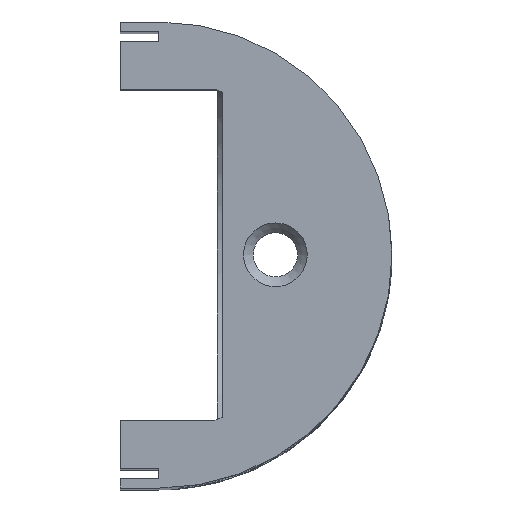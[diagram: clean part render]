
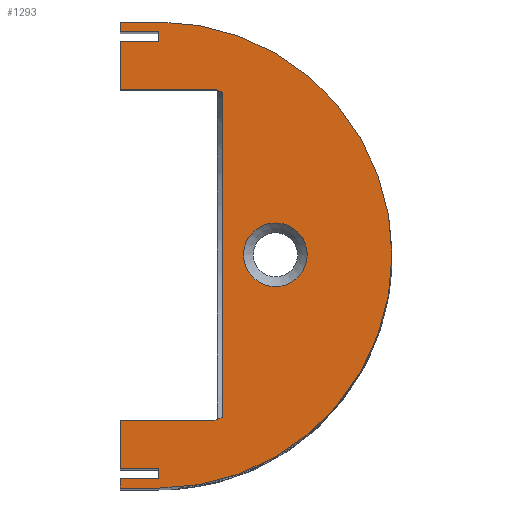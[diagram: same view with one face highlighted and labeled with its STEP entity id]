
A CAD part, top view. The second image highlights one B-rep face of the part: STEP entity #1293.
In plain terms, the highlighted planar face has unit normal (0, 0, 1).
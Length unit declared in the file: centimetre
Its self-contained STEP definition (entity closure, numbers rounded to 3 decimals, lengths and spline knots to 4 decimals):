
#148=CIRCLE('',#1333,3.81);
#177=CIRCLE('',#1386,0.5207);
#179=CIRCLE('',#1390,2.853);
#180=CIRCLE('',#1391,2.853);
#204=VERTEX_POINT('',#1787);
#205=VERTEX_POINT('',#1789);
#277=VERTEX_POINT('',#2385);
#279=VERTEX_POINT('',#2391);
#280=VERTEX_POINT('',#2392);
#281=VERTEX_POINT('',#2394);
#282=VERTEX_POINT('',#2396);
#283=VERTEX_POINT('',#2398);
#284=VERTEX_POINT('',#2400);
#285=VERTEX_POINT('',#2403);
#286=VERTEX_POINT('',#2405);
#287=VERTEX_POINT('',#2407);
#288=VERTEX_POINT('',#2409);
#289=VERTEX_POINT('',#2411);
#290=VERTEX_POINT('',#2413);
#291=VERTEX_POINT('',#2415);
#292=VERTEX_POINT('',#2417);
#293=VERTEX_POINT('',#2419);
#294=VERTEX_POINT('',#2421);
#376=VECTOR('',#1609,1.);
#377=VECTOR('',#1610,1.);
#378=VECTOR('',#1611,1.);
#379=VECTOR('',#1612,1.);
#380=VECTOR('',#1613,1.);
#381=VECTOR('',#1614,1.);
#382=VECTOR('',#1615,1.);
#383=VECTOR('',#1616,1.);
#384=VECTOR('',#1617,1.);
#385=VECTOR('',#1618,1.);
#386=VECTOR('',#1619,1.);
#387=VECTOR('',#1620,1.);
#388=VECTOR('',#1621,1.);
#389=VECTOR('',#1624,1.);
#390=VECTOR('',#1627,1.);
#492=LINE('',#2390,#376);
#493=LINE('',#2393,#377);
#494=LINE('',#2395,#378);
#495=LINE('',#2397,#379);
#496=LINE('',#2399,#380);
#497=LINE('',#2401,#381);
#498=LINE('',#2402,#382);
#499=LINE('',#2404,#383);
#500=LINE('',#2406,#384);
#501=LINE('',#2408,#385);
#502=LINE('',#2410,#386);
#503=LINE('',#2412,#387);
#504=LINE('',#2414,#388);
#505=LINE('',#2418,#389);
#506=LINE('',#2422,#390);
#568=EDGE_CURVE('',#204,#205,#148,.T.);
#676=EDGE_CURVE('',#277,#277,#177,.T.);
#678=EDGE_CURVE('',#279,#280,#492,.T.);
#679=EDGE_CURVE('',#281,#279,#493,.T.);
#680=EDGE_CURVE('',#282,#281,#494,.T.);
#681=EDGE_CURVE('',#283,#282,#495,.T.);
#682=EDGE_CURVE('',#284,#283,#496,.T.);
#683=EDGE_CURVE('',#205,#284,#497,.T.);
#684=EDGE_CURVE('',#285,#204,#498,.T.);
#685=EDGE_CURVE('',#286,#285,#499,.T.);
#686=EDGE_CURVE('',#287,#286,#500,.T.);
#687=EDGE_CURVE('',#288,#287,#501,.T.);
#688=EDGE_CURVE('',#289,#288,#502,.T.);
#689=EDGE_CURVE('',#290,#289,#503,.T.);
#690=EDGE_CURVE('',#291,#290,#504,.T.);
#691=EDGE_CURVE('',#292,#291,#179,.T.);
#692=EDGE_CURVE('',#293,#292,#505,.T.);
#693=EDGE_CURVE('',#294,#293,#180,.T.);
#694=EDGE_CURVE('',#280,#294,#506,.T.);
#964=ORIENTED_EDGE('',*,*,#678,.F.);
#965=ORIENTED_EDGE('',*,*,#679,.F.);
#966=ORIENTED_EDGE('',*,*,#680,.F.);
#967=ORIENTED_EDGE('',*,*,#681,.F.);
#968=ORIENTED_EDGE('',*,*,#682,.F.);
#969=ORIENTED_EDGE('',*,*,#683,.F.);
#970=ORIENTED_EDGE('',*,*,#568,.F.);
#971=ORIENTED_EDGE('',*,*,#684,.F.);
#972=ORIENTED_EDGE('',*,*,#685,.F.);
#973=ORIENTED_EDGE('',*,*,#686,.F.);
#974=ORIENTED_EDGE('',*,*,#687,.F.);
#975=ORIENTED_EDGE('',*,*,#688,.F.);
#976=ORIENTED_EDGE('',*,*,#689,.F.);
#977=ORIENTED_EDGE('',*,*,#690,.F.);
#978=ORIENTED_EDGE('',*,*,#691,.F.);
#979=ORIENTED_EDGE('',*,*,#692,.F.);
#980=ORIENTED_EDGE('',*,*,#693,.F.);
#981=ORIENTED_EDGE('',*,*,#694,.F.);
#982=ORIENTED_EDGE('',*,*,#676,.F.);
#1153=EDGE_LOOP('',(#964,#965,#966,#967,#968,#969,#970,#971,#972,#973,#974,
#975,#976,#977,#978,#979,#980,#981));
#1154=EDGE_LOOP('',(#982));
#1226=FACE_BOUND('',#1153,.T.);
#1227=FACE_BOUND('',#1154,.T.);
#1293=ADVANCED_FACE('',(#1226,#1227),#2504,.T.);
#1333=AXIS2_PLACEMENT_3D('',#1788,#1457,#1458);
#1386=AXIS2_PLACEMENT_3D('',#2384,#1602,#1603);
#1389=AXIS2_PLACEMENT_3D('',#2389,#1608,$);
#1390=AXIS2_PLACEMENT_3D('',#2416,#1622,#1623);
#1391=AXIS2_PLACEMENT_3D('',#2420,#1625,#1626);
#1457=DIRECTION('',(0.,0.,-1.));
#1458=DIRECTION('',(3.81,0.,0.));
#1602=DIRECTION('',(0.,0.,1.));
#1603=DIRECTION('',(-0.521,0.,0.));
#1608=DIRECTION('',(0.,0.,1.));
#1609=DIRECTION('',(0.,1.,0.));
#1610=DIRECTION('',(-1.,0.,0.));
#1611=DIRECTION('',(0.,1.,0.));
#1612=DIRECTION('',(1.,0.,0.));
#1613=DIRECTION('',(0.,1.,0.));
#1614=DIRECTION('',(-1.,0.,0.));
#1615=DIRECTION('',(1.,0.,0.));
#1616=DIRECTION('',(0.,1.,0.));
#1617=DIRECTION('',(-1.,0.,0.));
#1618=DIRECTION('',(0.,1.,0.));
#1619=DIRECTION('',(1.,0.,0.));
#1620=DIRECTION('',(0.,1.,0.));
#1621=DIRECTION('',(-1.,0.,0.));
#1622=DIRECTION('',(0.,0.,1.));
#1623=DIRECTION('',(2.853,0.,0.));
#1624=DIRECTION('',(0.,1.,0.));
#1625=DIRECTION('',(0.,0.,1.));
#1626=DIRECTION('',(2.853,0.,0.));
#1627=DIRECTION('',(1.,0.,0.));
#1787=CARTESIAN_POINT('',(0.,3.81,19.05));
#1788=CARTESIAN_POINT('',(0.,0.,19.05));
#1789=CARTESIAN_POINT('',(0.,-3.81,19.05));
#2384=CARTESIAN_POINT('',(1.905,0.0045,19.05));
#2385=CARTESIAN_POINT('',(2.4257,0.0045,19.05));
#2389=CARTESIAN_POINT('',(1.7144,0.0002,19.05));
#2390=CARTESIAN_POINT('',(-0.635,-3.3337,19.05));
#2391=CARTESIAN_POINT('',(-0.635,-3.4835,19.05));
#2392=CARTESIAN_POINT('',(-0.635,-2.6988,19.05));
#2393=CARTESIAN_POINT('',(-0.635,-3.4835,19.05));
#2394=CARTESIAN_POINT('',(0.,-3.4835,19.05));
#2395=CARTESIAN_POINT('',(0.,-3.4835,19.05));
#2396=CARTESIAN_POINT('',(0.,-3.6513,19.05));
#2397=CARTESIAN_POINT('',(0.,-3.6513,19.05));
#2398=CARTESIAN_POINT('',(-0.635,-3.6513,19.05));
#2399=CARTESIAN_POINT('',(-0.635,-3.6513,19.05));
#2400=CARTESIAN_POINT('',(-0.635,-3.81,19.05));
#2401=CARTESIAN_POINT('',(-0.635,-3.81,19.05));
#2402=CARTESIAN_POINT('',(0.,3.81,19.05));
#2403=CARTESIAN_POINT('',(-0.635,3.81,19.05));
#2404=CARTESIAN_POINT('',(-0.635,3.81,19.05));
#2405=CARTESIAN_POINT('',(-0.635,3.6513,19.05));
#2406=CARTESIAN_POINT('',(-0.635,3.6513,19.05));
#2407=CARTESIAN_POINT('',(0.,3.6513,19.05));
#2408=CARTESIAN_POINT('',(0.,3.6513,19.05));
#2409=CARTESIAN_POINT('',(0.,3.4925,19.05));
#2410=CARTESIAN_POINT('',(0.,3.4925,19.05));
#2411=CARTESIAN_POINT('',(-0.635,3.4925,19.05));
#2412=CARTESIAN_POINT('',(-0.635,2.6987,19.05));
#2413=CARTESIAN_POINT('',(-0.635,2.6987,19.05));
#2414=CARTESIAN_POINT('',(0.9384,2.6987,19.05));
#2415=CARTESIAN_POINT('',(0.9384,2.6987,19.05));
#2416=CARTESIAN_POINT('',(0.,0.0045,19.05));
#2417=CARTESIAN_POINT('',(1.0414,2.6606,19.05));
#2418=CARTESIAN_POINT('',(1.0414,-2.6516,19.05));
#2419=CARTESIAN_POINT('',(1.0414,-2.6516,19.05));
#2420=CARTESIAN_POINT('',(0.,0.0045,19.05));
#2421=CARTESIAN_POINT('',(0.9121,-2.6988,19.05));
#2422=CARTESIAN_POINT('',(-0.635,-2.6988,19.05));
#2504=PLANE('',#1389);
